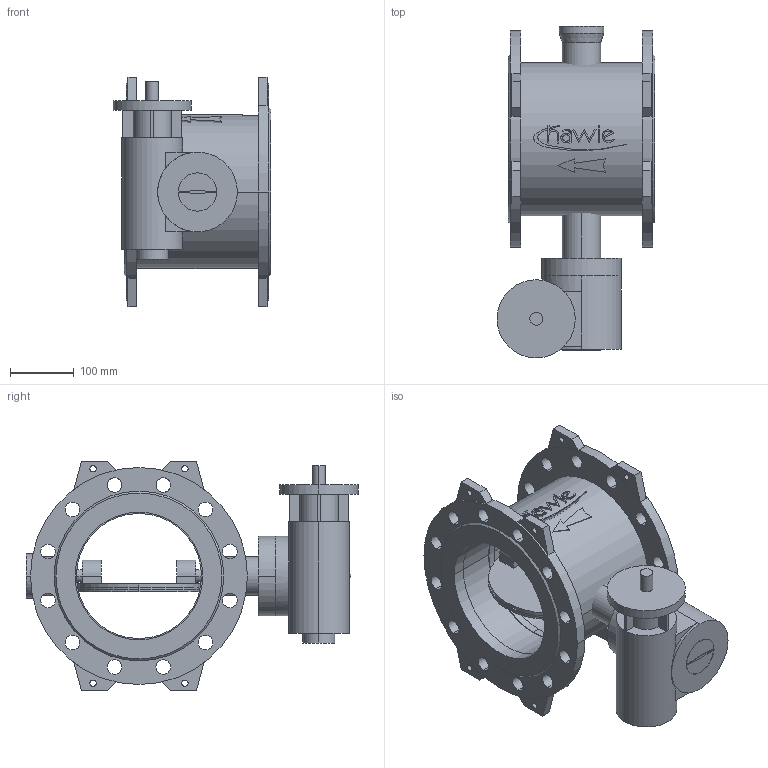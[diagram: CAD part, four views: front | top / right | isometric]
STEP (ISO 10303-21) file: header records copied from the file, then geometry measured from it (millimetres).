
FILE_DESCRIPTION(('STEP AP214'),'1');
FILE_NAME('S:/EK/USER/CAT6/3DHomepage_27-04-2012/neu_08-01-2013/9881K/9881K_PN16_DN200.STP','2013-02-26T15:16:17',(' '),(' '),'Spatial InterOp 3D',' ',' ');
FILE_SCHEMA(('automotive_design'));
Length unit declared in the file: millimetre
Products named in the file (44): 3D-Objekt
Bounding box: 247.25 x 520.25 x 360 mm (x, y, z)
Volume: 8908855.9 mm3; surface area: 1053612.3 mm2
Topology: 44 solids, 44 shells, 364 faces, 815 edges, 542 vertices
Faces by surface type: plane 194, cylinder 164, cone 6
Entity records: 14381 total; most frequent: DIRECTION 1975, CARTESIAN_POINT 1839, ORIENTED_EDGE 1630, EDGE_CURVE 815, AXIS2_PLACEMENT_3D 754, VERTEX_POINT 542, LINE 467, VECTOR 467
